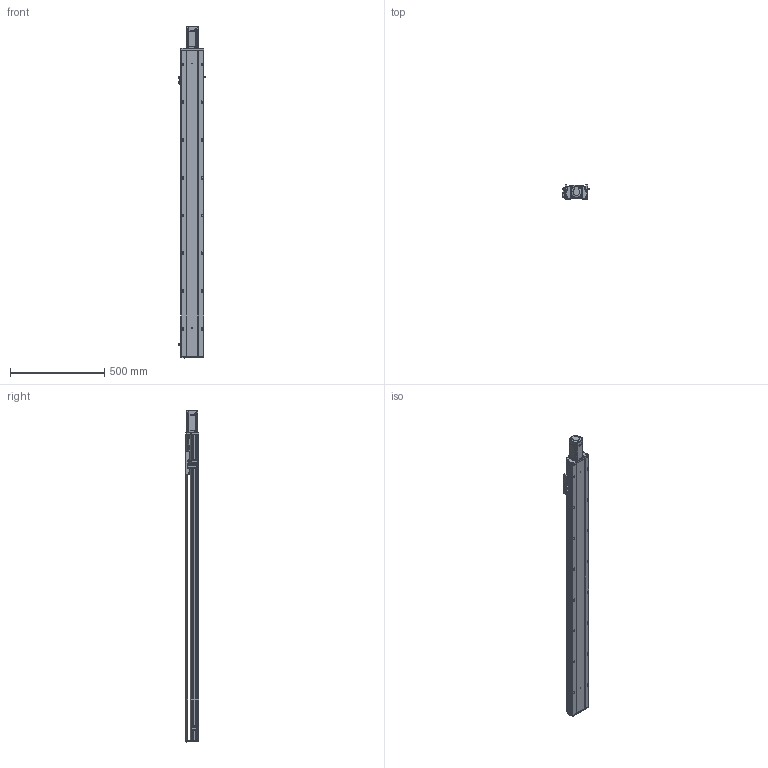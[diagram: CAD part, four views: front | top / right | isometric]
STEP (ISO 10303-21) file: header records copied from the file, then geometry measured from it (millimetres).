
FILE_DESCRIPTION (( 'STEP AP203' ), '1' );
FILE_NAME ('RYK120-L1610-S1350-M40-C3-MK.STEP', '2026-03-09T07:54:28', ( '' ), ( '' ), 'SwSTEP 2.0', 'SolidWorks 2016', '' );
FILE_SCHEMA (( 'CONFIG_CONTROL_DESIGN' ));
Length unit declared in the file: millimetre
Products named in the file (17): 覜茼ん672; RY120电机端支撑座-压铸加工-M5; 侂狟400W侜督萇儂; RY120綴裔啣; 滅袉蝶18-24; 滅袉蝶18-10; RY120-16螺母油路-集中注油组合; CB╱T 3762-1996[锥形润滑油嘴1-ZM10×1]_1-ZM10×1; 44-49-12-14; RYK120-L1610-S1350-M40-C3-MK; RYK120-300-MK-菁釱-啞_1350; RYK170-薊粣ん芵隴裔啣; RYK120-300-MK-奻裔啣-啞_1350; 15; RY120外置感应片(140共用）; 2.10.1.C521-V1.0RY120臏賑輸16蹟譫-啞-JZZY-NRL-L1899; RY120QGB-1.8
Assembly tree (21 placements, depth 3):
  RYK120-L1610-S1350-M40-C3-MK
    RYK120-300-MK-菁釱-啞_1350
    RYK120-300-MK-奻裔啣-啞_1350
    RY120綴裔啣
    滅袉蝶18-24  x2
    滅袉蝶18-10  x2
    覜茼ん672  x3
    RY120外置感应片(140共用）
    RY120QGB-1.8
    RY120-16螺母油路-集中注油组合
      2.10.1.C521-V1.0RY120臏賑輸16蹟譫-啞-JZZY-NRL-L1899
      CB╱T 3762-1996[锥形润滑油嘴1-ZM10×1]_1-ZM10×1  x2
    RY120电机端支撑座-压铸加工-M5
    RYK170-薊粣ん芵隴裔啣
    44-49-12-14
    侂狟400W侜督萇儂
      15
Bounding box: 145.7 x 73 x 1758.5 mm (x, y, z)
Volume: 4468854.9 mm3; surface area: 1616836.9 mm2
Topology: 23 solids, 23 shells, 2716 faces, 7534 edges, 4793 vertices
Faces by surface type: plane 1211, cylinder 1073, cone 305, bspline 127
Entity records: 90376 total; most frequent: CARTESIAN_POINT 26050, ORIENTED_EDGE 13496, DIRECTION 12427, EDGE_CURVE 6748, VERTEX_POINT 4405, AXIS2_PLACEMENT_3D 4294, LINE 3839, VECTOR 3839
